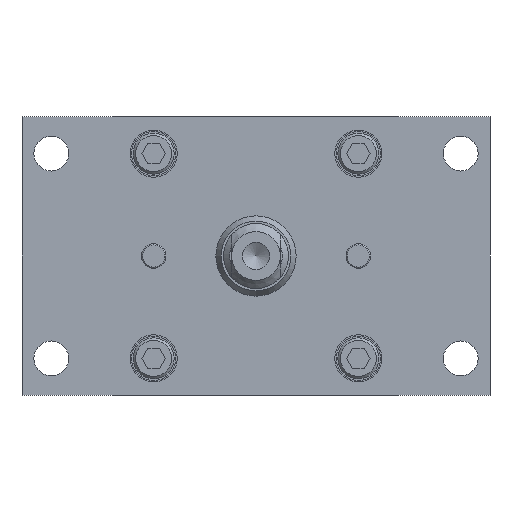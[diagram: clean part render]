
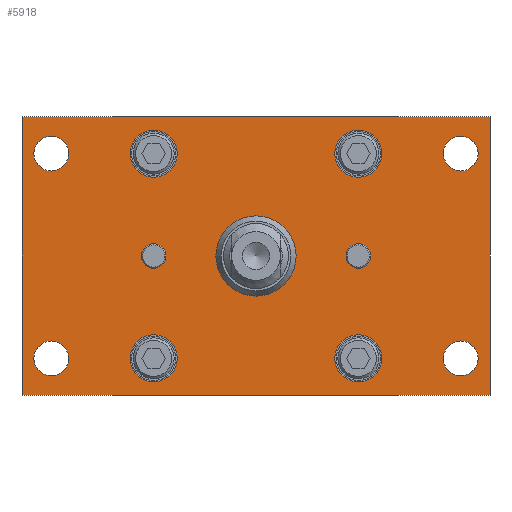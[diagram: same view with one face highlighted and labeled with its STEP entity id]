
A CAD part, front view. The second image highlights one B-rep face of the part: STEP entity #5918.
In plain terms, the highlighted planar face has unit normal (0, -1, 0) as drawn and (0, 0, -1) by its records, which use the part's own axes.
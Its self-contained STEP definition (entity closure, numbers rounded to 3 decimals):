
#147=FACE_BOUND('',#2093,.T.);
#148=FACE_BOUND('',#2094,.T.);
#149=FACE_BOUND('',#2095,.T.);
#150=FACE_BOUND('',#2096,.T.);
#151=FACE_BOUND('',#2097,.T.);
#152=FACE_BOUND('',#2098,.T.);
#153=FACE_BOUND('',#2099,.T.);
#154=FACE_BOUND('',#2100,.T.);
#155=FACE_BOUND('',#2101,.T.);
#156=FACE_BOUND('',#2102,.T.);
#157=FACE_BOUND('',#2103,.T.);
#480=PLANE('',#6683);
#855=LINE('',#9977,#1314);
#858=LINE('',#9982,#1317);
#860=LINE('',#9986,#1319);
#862=LINE('',#9989,#1321);
#1314=VECTOR('',#8077,10.);
#1317=VECTOR('',#8082,10.);
#1319=VECTOR('',#8086,10.);
#1321=VECTOR('',#8090,10.);
#1745=FACE_OUTER_BOUND('',#2092,.T.);
#2092=EDGE_LOOP('',(#5041,#5042,#5043,#5044));
#2093=EDGE_LOOP('',(#5045));
#2094=EDGE_LOOP('',(#5046,#5047));
#2095=EDGE_LOOP('',(#5048,#5049));
#2096=EDGE_LOOP('',(#5050,#5051));
#2097=EDGE_LOOP('',(#5052,#5053));
#2098=EDGE_LOOP('',(#5054,#5055));
#2099=EDGE_LOOP('',(#5056,#5057));
#2100=EDGE_LOOP('',(#5058,#5059));
#2101=EDGE_LOOP('',(#5060,#5061));
#2102=EDGE_LOOP('',(#5062,#5063));
#2103=EDGE_LOOP('',(#5064,#5065));
#2373=CIRCLE('',#6573,9.804);
#2410=CIRCLE('',#6624,3.);
#2411=CIRCLE('',#6625,3.);
#2412=CIRCLE('',#6627,3.);
#2413=CIRCLE('',#6628,3.);
#2414=CIRCLE('',#6630,4.25);
#2415=CIRCLE('',#6631,4.25);
#2416=CIRCLE('',#6633,4.25);
#2417=CIRCLE('',#6634,4.25);
#2418=CIRCLE('',#6636,4.25);
#2419=CIRCLE('',#6637,4.25);
#2420=CIRCLE('',#6639,4.25);
#2421=CIRCLE('',#6640,4.25);
#2427=CIRCLE('',#6651,5.75);
#2428=CIRCLE('',#6652,5.75);
#2432=CIRCLE('',#6659,5.75);
#2433=CIRCLE('',#6660,5.75);
#2437=CIRCLE('',#6667,5.75);
#2438=CIRCLE('',#6668,5.75);
#2442=CIRCLE('',#6675,5.75);
#2443=CIRCLE('',#6676,5.75);
#2888=VERTEX_POINT('',#9770);
#2927=VERTEX_POINT('',#9870);
#2928=VERTEX_POINT('',#9871);
#2929=VERTEX_POINT('',#9876);
#2930=VERTEX_POINT('',#9877);
#2931=VERTEX_POINT('',#9882);
#2932=VERTEX_POINT('',#9883);
#2933=VERTEX_POINT('',#9888);
#2934=VERTEX_POINT('',#9889);
#2935=VERTEX_POINT('',#9894);
#2936=VERTEX_POINT('',#9895);
#2937=VERTEX_POINT('',#9900);
#2938=VERTEX_POINT('',#9901);
#2944=VERTEX_POINT('',#9922);
#2945=VERTEX_POINT('',#9923);
#2949=VERTEX_POINT('',#9937);
#2950=VERTEX_POINT('',#9938);
#2954=VERTEX_POINT('',#9952);
#2955=VERTEX_POINT('',#9953);
#2959=VERTEX_POINT('',#9967);
#2960=VERTEX_POINT('',#9968);
#2961=VERTEX_POINT('',#9975);
#2962=VERTEX_POINT('',#9976);
#2963=VERTEX_POINT('',#9981);
#2964=VERTEX_POINT('',#9985);
#3613=EDGE_CURVE('',#2888,#2888,#2373,.T.);
#3660=EDGE_CURVE('',#2927,#2928,#2410,.T.);
#3661=EDGE_CURVE('',#2928,#2927,#2411,.T.);
#3663=EDGE_CURVE('',#2929,#2930,#2412,.T.);
#3664=EDGE_CURVE('',#2930,#2929,#2413,.T.);
#3666=EDGE_CURVE('',#2931,#2932,#2414,.T.);
#3667=EDGE_CURVE('',#2932,#2931,#2415,.T.);
#3669=EDGE_CURVE('',#2933,#2934,#2416,.T.);
#3670=EDGE_CURVE('',#2934,#2933,#2417,.T.);
#3672=EDGE_CURVE('',#2935,#2936,#2418,.T.);
#3673=EDGE_CURVE('',#2936,#2935,#2419,.T.);
#3675=EDGE_CURVE('',#2937,#2938,#2420,.T.);
#3676=EDGE_CURVE('',#2938,#2937,#2421,.T.);
#3685=EDGE_CURVE('',#2944,#2945,#2427,.T.);
#3686=EDGE_CURVE('',#2945,#2944,#2428,.T.);
#3692=EDGE_CURVE('',#2949,#2950,#2432,.T.);
#3693=EDGE_CURVE('',#2950,#2949,#2433,.T.);
#3699=EDGE_CURVE('',#2954,#2955,#2437,.T.);
#3700=EDGE_CURVE('',#2955,#2954,#2438,.T.);
#3706=EDGE_CURVE('',#2959,#2960,#2442,.T.);
#3707=EDGE_CURVE('',#2960,#2959,#2443,.T.);
#3710=EDGE_CURVE('',#2961,#2962,#855,.T.);
#3713=EDGE_CURVE('',#2963,#2961,#858,.T.);
#3715=EDGE_CURVE('',#2964,#2963,#860,.T.);
#3717=EDGE_CURVE('',#2962,#2964,#862,.T.);
#5041=ORIENTED_EDGE('',*,*,#3717,.F.);
#5042=ORIENTED_EDGE('',*,*,#3710,.F.);
#5043=ORIENTED_EDGE('',*,*,#3713,.F.);
#5044=ORIENTED_EDGE('',*,*,#3715,.F.);
#5045=ORIENTED_EDGE('',*,*,#3613,.T.);
#5046=ORIENTED_EDGE('',*,*,#3660,.T.);
#5047=ORIENTED_EDGE('',*,*,#3661,.T.);
#5048=ORIENTED_EDGE('',*,*,#3663,.T.);
#5049=ORIENTED_EDGE('',*,*,#3664,.T.);
#5050=ORIENTED_EDGE('',*,*,#3666,.T.);
#5051=ORIENTED_EDGE('',*,*,#3667,.T.);
#5052=ORIENTED_EDGE('',*,*,#3669,.T.);
#5053=ORIENTED_EDGE('',*,*,#3670,.T.);
#5054=ORIENTED_EDGE('',*,*,#3672,.T.);
#5055=ORIENTED_EDGE('',*,*,#3673,.T.);
#5056=ORIENTED_EDGE('',*,*,#3675,.T.);
#5057=ORIENTED_EDGE('',*,*,#3676,.T.);
#5058=ORIENTED_EDGE('',*,*,#3685,.T.);
#5059=ORIENTED_EDGE('',*,*,#3686,.T.);
#5060=ORIENTED_EDGE('',*,*,#3692,.T.);
#5061=ORIENTED_EDGE('',*,*,#3693,.T.);
#5062=ORIENTED_EDGE('',*,*,#3699,.T.);
#5063=ORIENTED_EDGE('',*,*,#3700,.T.);
#5064=ORIENTED_EDGE('',*,*,#3706,.T.);
#5065=ORIENTED_EDGE('',*,*,#3707,.T.);
#5918=ADVANCED_FACE('',(#1745,#147,#148,#149,#150,#151,#152,#153,#154,#155,
#156,#157),#480,.F.);
#6573=AXIS2_PLACEMENT_3D('',#9771,#7839,#7840);
#6624=AXIS2_PLACEMENT_3D('',#9872,#7951,#7952);
#6625=AXIS2_PLACEMENT_3D('',#9873,#7953,#7954);
#6627=AXIS2_PLACEMENT_3D('',#9878,#7958,#7959);
#6628=AXIS2_PLACEMENT_3D('',#9879,#7960,#7961);
#6630=AXIS2_PLACEMENT_3D('',#9884,#7965,#7966);
#6631=AXIS2_PLACEMENT_3D('',#9885,#7967,#7968);
#6633=AXIS2_PLACEMENT_3D('',#9890,#7972,#7973);
#6634=AXIS2_PLACEMENT_3D('',#9891,#7974,#7975);
#6636=AXIS2_PLACEMENT_3D('',#9896,#7979,#7980);
#6637=AXIS2_PLACEMENT_3D('',#9897,#7981,#7982);
#6639=AXIS2_PLACEMENT_3D('',#9902,#7986,#7987);
#6640=AXIS2_PLACEMENT_3D('',#9903,#7988,#7989);
#6651=AXIS2_PLACEMENT_3D('',#9924,#8013,#8014);
#6652=AXIS2_PLACEMENT_3D('',#9925,#8015,#8016);
#6659=AXIS2_PLACEMENT_3D('',#9939,#8031,#8032);
#6660=AXIS2_PLACEMENT_3D('',#9940,#8033,#8034);
#6667=AXIS2_PLACEMENT_3D('',#9954,#8049,#8050);
#6668=AXIS2_PLACEMENT_3D('',#9955,#8051,#8052);
#6675=AXIS2_PLACEMENT_3D('',#9969,#8067,#8068);
#6676=AXIS2_PLACEMENT_3D('',#9970,#8069,#8070);
#6683=AXIS2_PLACEMENT_3D('',#9991,#8093,#8094);
#7839=DIRECTION('center_axis',(0.,0.,1.));
#7840=DIRECTION('ref_axis',(1.,0.,0.));
#7951=DIRECTION('center_axis',(0.,0.,1.));
#7952=DIRECTION('ref_axis',(-1.,0.,0.));
#7953=DIRECTION('center_axis',(0.,0.,1.));
#7954=DIRECTION('ref_axis',(-1.,0.,0.));
#7958=DIRECTION('center_axis',(0.,0.,1.));
#7959=DIRECTION('ref_axis',(-1.,0.,0.));
#7960=DIRECTION('center_axis',(0.,0.,1.));
#7961=DIRECTION('ref_axis',(-1.,0.,0.));
#7965=DIRECTION('center_axis',(0.,0.,1.));
#7966=DIRECTION('ref_axis',(-1.,0.,0.));
#7967=DIRECTION('center_axis',(0.,0.,1.));
#7968=DIRECTION('ref_axis',(-1.,0.,0.));
#7972=DIRECTION('center_axis',(0.,0.,1.));
#7973=DIRECTION('ref_axis',(-1.,0.,0.));
#7974=DIRECTION('center_axis',(0.,0.,1.));
#7975=DIRECTION('ref_axis',(-1.,0.,0.));
#7979=DIRECTION('center_axis',(0.,0.,1.));
#7980=DIRECTION('ref_axis',(-1.,0.,0.));
#7981=DIRECTION('center_axis',(0.,0.,1.));
#7982=DIRECTION('ref_axis',(-1.,0.,0.));
#7986=DIRECTION('center_axis',(0.,0.,1.));
#7987=DIRECTION('ref_axis',(-1.,0.,0.));
#7988=DIRECTION('center_axis',(0.,0.,1.));
#7989=DIRECTION('ref_axis',(-1.,0.,0.));
#8013=DIRECTION('center_axis',(0.,0.,1.));
#8014=DIRECTION('ref_axis',(-1.,0.,0.));
#8015=DIRECTION('center_axis',(0.,0.,1.));
#8016=DIRECTION('ref_axis',(-1.,0.,0.));
#8031=DIRECTION('center_axis',(0.,0.,1.));
#8032=DIRECTION('ref_axis',(-1.,0.,0.));
#8033=DIRECTION('center_axis',(0.,0.,1.));
#8034=DIRECTION('ref_axis',(-1.,0.,0.));
#8049=DIRECTION('center_axis',(0.,0.,1.));
#8050=DIRECTION('ref_axis',(-1.,0.,0.));
#8051=DIRECTION('center_axis',(0.,0.,1.));
#8052=DIRECTION('ref_axis',(-1.,0.,0.));
#8067=DIRECTION('center_axis',(0.,0.,1.));
#8068=DIRECTION('ref_axis',(-1.,0.,0.));
#8069=DIRECTION('center_axis',(0.,0.,1.));
#8070=DIRECTION('ref_axis',(-1.,0.,0.));
#8077=DIRECTION('',(-1.,0.,0.));
#8082=DIRECTION('',(0.,1.,0.));
#8086=DIRECTION('',(1.,0.,0.));
#8090=DIRECTION('',(0.,-1.,0.));
#8093=DIRECTION('center_axis',(0.,0.,1.));
#8094=DIRECTION('ref_axis',(1.,0.,0.));
#9770=CARTESIAN_POINT('',(-9.804,0.,0.));
#9771=CARTESIAN_POINT('Origin',(0.,0.,0.));
#9870=CARTESIAN_POINT('',(-28.,0.,0.));
#9871=CARTESIAN_POINT('',(-22.,0.,0.));
#9872=CARTESIAN_POINT('Origin',(-25.,0.,0.));
#9873=CARTESIAN_POINT('Origin',(-25.,0.,0.));
#9876=CARTESIAN_POINT('',(22.,0.,0.));
#9877=CARTESIAN_POINT('',(28.,0.,0.));
#9878=CARTESIAN_POINT('Origin',(25.,0.,0.));
#9879=CARTESIAN_POINT('Origin',(25.,0.,0.));
#9882=CARTESIAN_POINT('',(45.75,25.,0.));
#9883=CARTESIAN_POINT('',(54.25,25.,0.));
#9884=CARTESIAN_POINT('Origin',(50.,25.,0.));
#9885=CARTESIAN_POINT('Origin',(50.,25.,0.));
#9888=CARTESIAN_POINT('',(-54.25,-25.,0.));
#9889=CARTESIAN_POINT('',(-45.75,-25.,0.));
#9890=CARTESIAN_POINT('Origin',(-50.,-25.,0.));
#9891=CARTESIAN_POINT('Origin',(-50.,-25.,0.));
#9894=CARTESIAN_POINT('',(-54.25,25.,0.));
#9895=CARTESIAN_POINT('',(-45.75,25.,0.));
#9896=CARTESIAN_POINT('Origin',(-50.,25.,0.));
#9897=CARTESIAN_POINT('Origin',(-50.,25.,0.));
#9900=CARTESIAN_POINT('',(45.75,-25.,0.));
#9901=CARTESIAN_POINT('',(54.25,-25.,0.));
#9902=CARTESIAN_POINT('Origin',(50.,-25.,0.));
#9903=CARTESIAN_POINT('Origin',(50.,-25.,0.));
#9922=CARTESIAN_POINT('',(19.25,25.,0.));
#9923=CARTESIAN_POINT('',(30.75,25.,0.));
#9924=CARTESIAN_POINT('Origin',(25.,25.,0.));
#9925=CARTESIAN_POINT('Origin',(25.,25.,0.));
#9937=CARTESIAN_POINT('',(-30.75,-25.,0.));
#9938=CARTESIAN_POINT('',(-19.25,-25.,0.));
#9939=CARTESIAN_POINT('Origin',(-25.,-25.,0.));
#9940=CARTESIAN_POINT('Origin',(-25.,-25.,0.));
#9952=CARTESIAN_POINT('',(19.25,-25.,0.));
#9953=CARTESIAN_POINT('',(30.75,-25.,0.));
#9954=CARTESIAN_POINT('Origin',(25.,-25.,0.));
#9955=CARTESIAN_POINT('Origin',(25.,-25.,0.));
#9967=CARTESIAN_POINT('',(-30.75,25.,0.));
#9968=CARTESIAN_POINT('',(-19.25,25.,0.));
#9969=CARTESIAN_POINT('Origin',(-25.,25.,0.));
#9970=CARTESIAN_POINT('Origin',(-25.,25.,0.));
#9975=CARTESIAN_POINT('',(57.15,34.,0.));
#9976=CARTESIAN_POINT('',(-57.15,34.,0.));
#9977=CARTESIAN_POINT('',(57.15,34.,0.));
#9981=CARTESIAN_POINT('',(57.15,-34.,0.));
#9982=CARTESIAN_POINT('',(57.15,-34.,0.));
#9985=CARTESIAN_POINT('',(-57.15,-34.,0.));
#9986=CARTESIAN_POINT('',(-57.15,-34.,0.));
#9989=CARTESIAN_POINT('',(-57.15,34.,0.));
#9991=CARTESIAN_POINT('Origin',(0.,0.,
0.));
